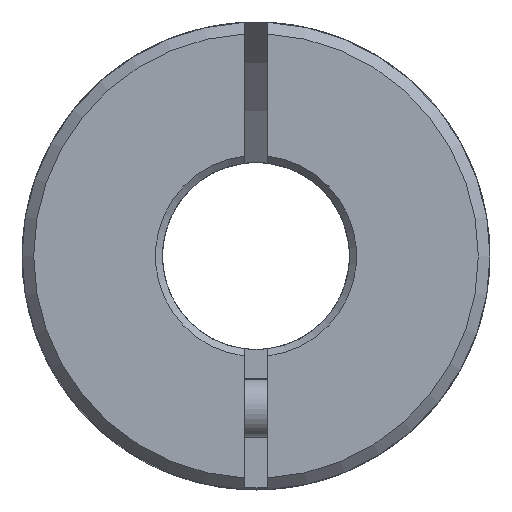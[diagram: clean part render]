
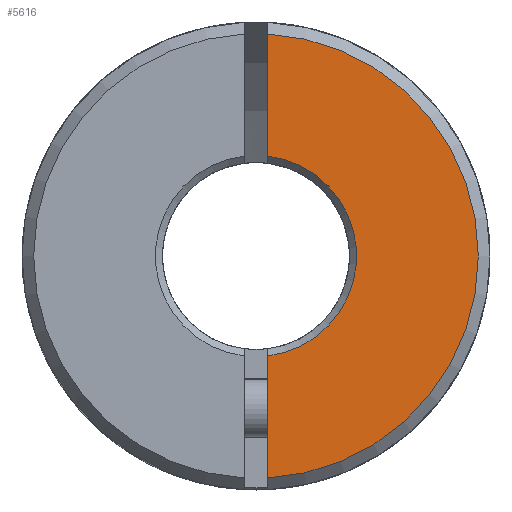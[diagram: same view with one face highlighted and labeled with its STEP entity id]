
A CAD part, front view. The second image highlights one B-rep face of the part: STEP entity #5616.
In plain terms, the highlighted planar face has unit normal (0, -1, 0).
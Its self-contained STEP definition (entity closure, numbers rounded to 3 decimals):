
#908 = EDGE_CURVE ( 'NONE', #9774, #4959, #2378, .T. ) ;
#910 = CIRCLE ( 'NONE', #2092, 4.3 ) ;
#1055 = ORIENTED_EDGE ( 'NONE', *, *, #7207, .F. ) ;
#1118 = CARTESIAN_POINT ( 'NONE',  ( 0.5, -33., -12.292 ) ) ;
#1910 = DIRECTION ( 'NONE',  ( 0., 0., 1. ) ) ;
#2092 = AXIS2_PLACEMENT_3D ( 'NONE', #3797, #2950, #7729 ) ;
#2378 = LINE ( 'NONE', #1118, #3015 ) ;
#2505 = CARTESIAN_POINT ( 'NONE',  ( 0.5, -33., 4.271 ) ) ;
#2911 = PLANE ( 'NONE',  #5330 ) ;
#2950 = DIRECTION ( 'NONE',  ( 0., 1., 0. ) ) ;
#2986 = CIRCLE ( 'NONE', #6405, 9.5 ) ;
#3010 = CARTESIAN_POINT ( 'NONE',  ( 50., -33., -12.292 ) ) ;
#3015 = VECTOR ( 'NONE', #1910, 1000. ) ;
#3377 = FACE_OUTER_BOUND ( 'NONE', #3730, .T. ) ;
#3598 = CARTESIAN_POINT ( 'NONE',  ( 0.5, -33., -9.487 ) ) ;
#3657 = CARTESIAN_POINT ( 'NONE',  ( 0., -33., 0. ) ) ;
#3730 = EDGE_LOOP ( 'NONE', ( #1055, #5162, #7933, #5318 ) ) ;
#3797 = CARTESIAN_POINT ( 'NONE',  ( 0., -33., 0. ) ) ;
#3817 = DIRECTION ( 'NONE',  ( 0., 0., -1. ) ) ;
#4959 = VERTEX_POINT ( 'NONE', #10075 ) ;
#5162 = ORIENTED_EDGE ( 'NONE', *, *, #5562, .T. ) ;
#5318 = ORIENTED_EDGE ( 'NONE', *, *, #9910, .T. ) ;
#5330 = AXIS2_PLACEMENT_3D ( 'NONE', #3010, #9358, #3817 ) ;
#5471 = LINE ( 'NONE', #5528, #7367 ) ;
#5528 = CARTESIAN_POINT ( 'NONE',  ( 0.5, -33., -12.292 ) ) ;
#5562 = EDGE_CURVE ( 'NONE', #8593, #4959, #2986, .T. ) ;
#5616 = ADVANCED_FACE ( 'NONE', ( #3377 ), #2911, .F. ) ;
#6015 = DIRECTION ( 'NONE',  ( 0., -1., 0. ) ) ;
#6405 = AXIS2_PLACEMENT_3D ( 'NONE', #3657, #6015, #9284 ) ;
#7207 = EDGE_CURVE ( 'NONE', #8593, #8965, #5471, .T. ) ;
#7367 = VECTOR ( 'NONE', #8806, 1000. ) ;
#7729 = DIRECTION ( 'NONE',  ( 0., 0., -1. ) ) ;
#7933 = ORIENTED_EDGE ( 'NONE', *, *, #908, .F. ) ;
#8593 = VERTEX_POINT ( 'NONE', #3598 ) ;
#8806 = DIRECTION ( 'NONE',  ( 0., 0., 1. ) ) ;
#8965 = VERTEX_POINT ( 'NONE', #9549 ) ;
#9284 = DIRECTION ( 'NONE',  ( 0., 0., -1. ) ) ;
#9358 = DIRECTION ( 'NONE',  ( 0., 1., 0. ) ) ;
#9549 = CARTESIAN_POINT ( 'NONE',  ( 0.5, -33., -4.271 ) ) ;
#9774 = VERTEX_POINT ( 'NONE', #2505 ) ;
#9910 = EDGE_CURVE ( 'NONE', #9774, #8965, #910, .T. ) ;
#10075 = CARTESIAN_POINT ( 'NONE',  ( 0.5, -33., 9.487 ) ) ;
